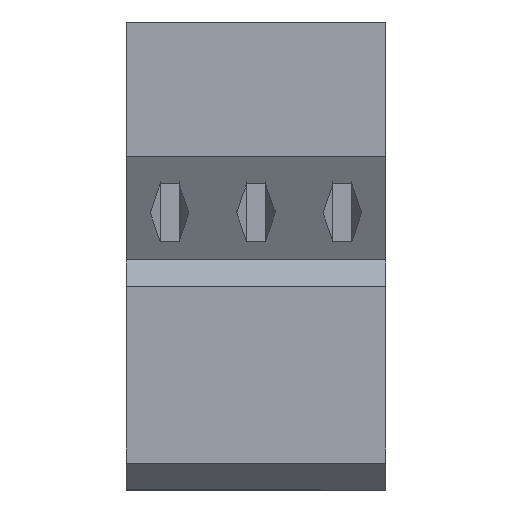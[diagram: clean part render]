
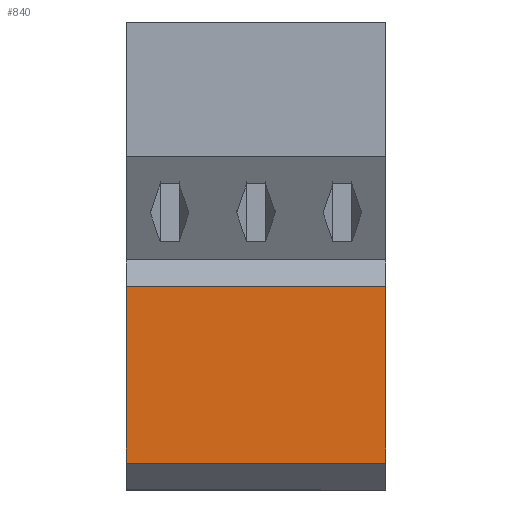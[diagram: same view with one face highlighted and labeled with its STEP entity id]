
A CAD part, left-side view. The second image highlights one B-rep face of the part: STEP entity #840.
In plain terms, the highlighted planar face has unit normal (-1, 0, 0).
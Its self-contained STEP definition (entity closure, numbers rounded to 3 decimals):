
#60 = DIRECTION ( 'NONE',  ( 0., 1., 0. ) ) ;
#119 = VERTEX_POINT ( 'NONE', #2732 ) ;
#172 = CARTESIAN_POINT ( 'NONE',  ( -44., 0., 19.628 ) ) ;
#247 = EDGE_LOOP ( 'NONE', ( #1752, #2178, #1944, #1639 ) ) ;
#356 = PLANE ( 'NONE',  #2264 ) ;
#817 = CARTESIAN_POINT ( 'NONE',  ( -44., 48., 0. ) ) ;
#831 = DIRECTION ( 'NONE',  ( 1., 0., 0. ) ) ;
#840 = ADVANCED_FACE ( 'NONE', ( #1531 ), #356, .F. ) ;
#842 = LINE ( 'NONE', #1097, #1336 ) ;
#1046 = CARTESIAN_POINT ( 'NONE',  ( -44., 48., 19.628 ) ) ;
#1097 = CARTESIAN_POINT ( 'NONE',  ( -44., 0., 0. ) ) ;
#1118 = DIRECTION ( 'NONE',  ( 0., -1., 0. ) ) ;
#1271 = CARTESIAN_POINT ( 'NONE',  ( -44., -38.244, 19.628 ) ) ;
#1272 = LINE ( 'NONE', #817, #1347 ) ;
#1336 = VECTOR ( 'NONE', #1807, 1000. ) ;
#1347 = VECTOR ( 'NONE', #2475, 1000. ) ;
#1531 = FACE_OUTER_BOUND ( 'NONE', #247, .T. ) ;
#1639 = ORIENTED_EDGE ( 'NONE', *, *, #1981, .T. ) ;
#1712 = VERTEX_POINT ( 'NONE', #1046 ) ;
#1752 = ORIENTED_EDGE ( 'NONE', *, *, #2809, .T. ) ;
#1807 = DIRECTION ( 'NONE',  ( 0., 0., 1. ) ) ;
#1830 = CARTESIAN_POINT ( 'NONE',  ( -44., 0., -13. ) ) ;
#1944 = ORIENTED_EDGE ( 'NONE', *, *, #2523, .T. ) ;
#1965 = VECTOR ( 'NONE', #1118, 1000. ) ;
#1981 = EDGE_CURVE ( 'NONE', #119, #2179, #2524, .T. ) ;
#1989 = VECTOR ( 'NONE', #60, 1000. ) ;
#2056 = VERTEX_POINT ( 'NONE', #172 ) ;
#2143 = LINE ( 'NONE', #1271, #1989 ) ;
#2178 = ORIENTED_EDGE ( 'NONE', *, *, #3019, .T. ) ;
#2179 = VERTEX_POINT ( 'NONE', #1830 ) ;
#2264 = AXIS2_PLACEMENT_3D ( 'NONE', #2478, #831, #2491 ) ;
#2296 = CARTESIAN_POINT ( 'NONE',  ( -44., 0., -13. ) ) ;
#2475 = DIRECTION ( 'NONE',  ( 0., 0., -1. ) ) ;
#2478 = CARTESIAN_POINT ( 'NONE',  ( -44., -38.244, 0. ) ) ;
#2491 = DIRECTION ( 'NONE',  ( 0., 0., -1. ) ) ;
#2523 = EDGE_CURVE ( 'NONE', #1712, #119, #1272, .T. ) ;
#2524 = LINE ( 'NONE', #2296, #1965 ) ;
#2732 = CARTESIAN_POINT ( 'NONE',  ( -44., 48., -13. ) ) ;
#2809 = EDGE_CURVE ( 'NONE', #2179, #2056, #842, .T. ) ;
#3019 = EDGE_CURVE ( 'NONE', #2056, #1712, #2143, .T. ) ;
